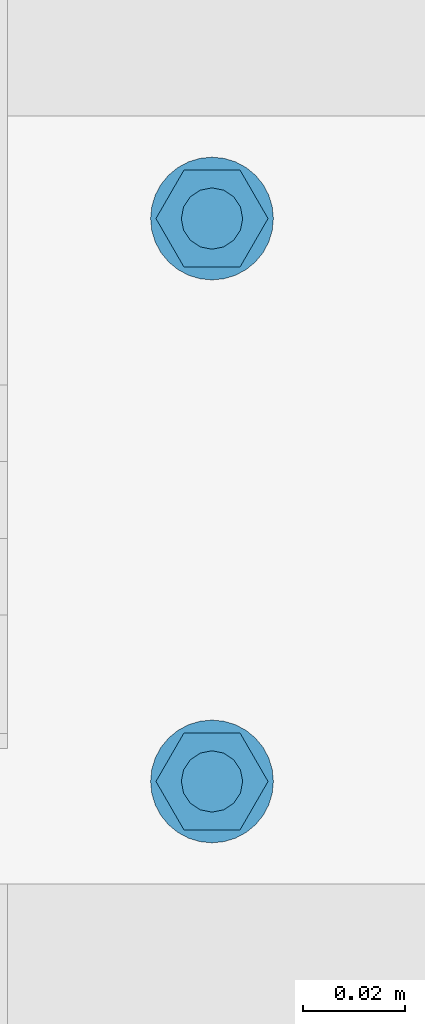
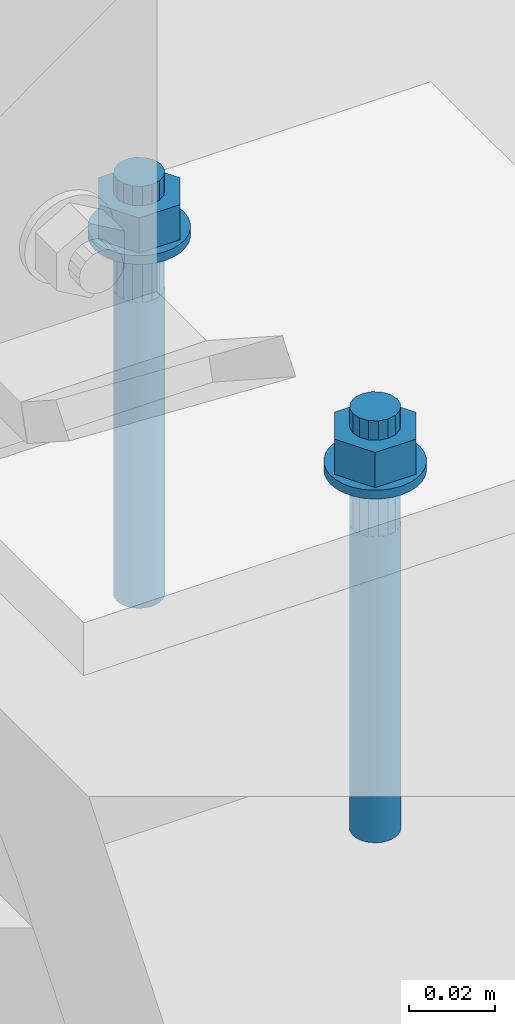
# One storey, part 187 of 296: 1 mechanical fastener.
"""IFC2X3 building model written with IfcOpenShell, lengths in millimetres."""

from ifc_helpers import new_model, entity, si_unit, converted_unit, origin_with_axes, place, context, project, spatial, faceted_brep, element, save


model = new_model("IFC2X3")

# Units and contexts
model_context = context("Model", 3, precision=1e-09, world=origin_with_axes())
ifc_project = project(units=[si_unit("LENGTHUNIT", "METRE", prefix="MILLI"), si_unit("AREAUNIT", "SQUARE_METRE"), si_unit("VOLUMEUNIT", "CUBIC_METRE"), converted_unit("PLANEANGLEUNIT", "DEGREE", entity("IfcPlaneAngleMeasure", 0.01745329), si_unit("PLANEANGLEUNIT", "RADIAN"), dimensions=[0, 0, 0, 0, 0, 0, 0])], contexts=[model_context])

# Site, building, storey
site_placement = place(None, origin_with_axes())
site = spatial("IfcSite", under=ifc_project, at=site_placement, Name="TZD-S?d | Treppenhausgel?nder", CompositionType="ELEMENT")
building_placement = place(site_placement, origin_with_axes())
building = spatial("IfcBuilding", under=site, at=building_placement, Name="Struktur 1", CompositionType="ELEMENT")
storey_placement = place(building_placement, origin_with_axes())
storey = spatial("IfcBuildingStorey", under=building, at=storey_placement, Name="Default Storey", CompositionType="ELEMENT", Elevation=0.0)

# Mechanical fastener
mechanical_fastener_placement = place(None, origin_with_axes())
element("IfcMechanicalFastener", 1, at=mechanical_fastener_placement, inside=storey, ObjectType="-", NominalDiameter=12.0, NominalLength=120.0, context=model_context, shape_type="Brep", body=[
    faceted_brep([(5959.999, -483.0, 2824.999), (5959.999, -483.0, 2827.499), (5962.340083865, -483.230576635, 2827.499), (5962.340083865, -483.230576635, 2824.999), (5964.591201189, -483.91344561, 2827.499), (5964.591201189, -483.91344561, 2824.999), (5966.665842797, -485.022364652, 2827.499), (5966.665842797, -485.022364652, 2824.999), (5968.484281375, -486.514718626, 2827.499), (5968.484281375, -486.514718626, 2824.999), (5969.976635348, -488.333157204, 2827.499), (5969.976635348, -488.333157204, 2824.999), (5971.085554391, -490.407798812, 2827.499), (5971.085554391, -490.407798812, 2824.999), (5971.768423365, -492.658916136, 2827.499), (5971.768423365, -492.658916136, 2824.999), (5971.999, -495.0, 2827.499), (5971.999, -495.0, 2824.999), (5971.768423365, -497.341083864, 2827.499), (5971.768423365, -497.341083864, 2824.999), (5971.085554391, -499.592201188, 2827.499), (5971.085554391, -499.592201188, 2824.999), (5969.976635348, -501.666842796, 2827.499), (5969.976635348, -501.666842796, 2824.999), (5968.484281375, -503.485281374, 2827.499), (5968.484281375, -503.485281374, 2824.999), (5966.665842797, -504.977635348, 2827.499), (5966.665842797, -504.977635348, 2824.999), (5964.591201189, -506.08655439, 2827.499), (5964.591201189, -506.08655439, 2824.999), (5962.340083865, -506.769423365, 2827.499), (5962.340083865, -506.769423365, 2824.999), (5959.999, -507.0, 2827.499), (5959.999, -507.0, 2824.999), (5957.657916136, -506.769423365, 2827.499), (5957.657916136, -506.769423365, 2824.999), (5955.406798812, -506.08655439, 2827.499), (5955.406798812, -506.08655439, 2824.999), (5953.332157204, -504.977635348, 2827.499), (5953.332157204, -504.977635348, 2824.999), (5951.513718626, -503.485281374, 2827.499), (5951.513718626, -503.485281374, 2824.999), (5950.021364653, -501.666842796, 2827.499), (5950.021364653, -501.666842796, 2824.999), (5948.91244561, -499.592201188, 2827.499), (5948.91244561, -499.592201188, 2824.999), (5948.229576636, -497.341083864, 2827.499), (5948.229576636, -497.341083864, 2824.999), (5947.999, -495.0, 2827.499), (5947.999, -495.0, 2824.999), (5948.229576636, -492.658916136, 2827.499), (5948.229576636, -492.658916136, 2824.999), (5948.91244561, -490.407798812, 2827.499), (5948.91244561, -490.407798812, 2824.999), (5950.021364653, -488.333157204, 2827.499), (5950.021364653, -488.333157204, 2824.999), (5951.513718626, -486.514718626, 2827.499), (5951.513718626, -486.514718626, 2824.999), (5953.332157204, -485.022364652, 2827.499), (5953.332157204, -485.022364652, 2824.999), (5955.406798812, -483.91344561, 2827.499), (5955.406798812, -483.91344561, 2824.999), (5957.657916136, -483.230576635, 2827.499), (5957.657916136, -483.230576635, 2824.999)], [[[0, 1, 2, 3]], [[3, 2, 4, 5]], [[5, 4, 6, 7]], [[7, 6, 8, 9]], [[9, 8, 10, 11]], [[11, 10, 12, 13]], [[13, 12, 14, 15]], [[15, 14, 16, 17]], [[17, 16, 18, 19]], [[19, 18, 20, 21]], [[21, 20, 22, 23]], [[23, 22, 24, 25]], [[25, 24, 26, 27]], [[27, 26, 28, 29]], [[29, 28, 30, 31]], [[31, 30, 32, 33]], [[33, 32, 34, 35]], [[35, 34, 36, 37]], [[37, 36, 38, 39]], [[39, 38, 40, 41]], [[41, 40, 42, 43]], [[43, 42, 44, 45]], [[45, 44, 46, 47]], [[47, 46, 48, 49]], [[49, 48, 50, 51]], [[51, 50, 52, 53]], [[53, 52, 54, 55]], [[55, 54, 56, 57]], [[57, 56, 58, 59]], [[59, 58, 60, 61]], [[61, 60, 62, 63]], [[63, 62, 1, 0]], [[2, 1, 62, 60, 58, 56, 54, 52, 50, 48, 46, 44, 42, 40, 38, 36, 34, 32, 30, 28, 26, 24, 22, 20, 18, 16, 14, 12, 10, 8, 6, 4]], [[63, 0, 3, 5, 7, 9, 11, 13, 15, 17, 19, 21, 23, 25, 27, 29, 31, 33, 35, 37, 39, 41, 43, 45, 47, 49, 51, 53, 55, 57, 59, 61]]]),
    faceted_brep([(5959.999, -373.0, 2824.999), (5959.999, -373.0, 2827.499), (5962.340083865, -373.230576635, 2827.499), (5962.340083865, -373.230576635, 2824.999), (5964.591201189, -373.91344561, 2827.499), (5964.591201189, -373.91344561, 2824.999), (5966.665842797, -375.022364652, 2827.499), (5966.665842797, -375.022364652, 2824.999), (5968.484281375, -376.514718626, 2827.499), (5968.484281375, -376.514718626, 2824.999), (5969.976635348, -378.333157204, 2827.499), (5969.976635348, -378.333157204, 2824.999), (5971.085554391, -380.407798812, 2827.499), (5971.085554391, -380.407798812, 2824.999), (5971.768423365, -382.658916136, 2827.499), (5971.768423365, -382.658916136, 2824.999), (5971.999, -385.0, 2827.499), (5971.999, -385.0, 2824.999), (5971.768423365, -387.341083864, 2827.499), (5971.768423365, -387.341083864, 2824.999), (5971.085554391, -389.592201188, 2827.499), (5971.085554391, -389.592201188, 2824.999), (5969.976635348, -391.666842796, 2827.499), (5969.976635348, -391.666842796, 2824.999), (5968.484281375, -393.485281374, 2827.499), (5968.484281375, -393.485281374, 2824.999), (5966.665842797, -394.977635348, 2827.499), (5966.665842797, -394.977635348, 2824.999), (5964.591201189, -396.08655439, 2827.499), (5964.591201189, -396.08655439, 2824.999), (5962.340083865, -396.769423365, 2827.499), (5962.340083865, -396.769423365, 2824.999), (5959.999, -397.0, 2827.499), (5959.999, -397.0, 2824.999), (5957.657916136, -396.769423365, 2827.499), (5957.657916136, -396.769423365, 2824.999), (5955.406798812, -396.08655439, 2827.499), (5955.406798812, -396.08655439, 2824.999), (5953.332157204, -394.977635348, 2827.499), (5953.332157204, -394.977635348, 2824.999), (5951.513718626, -393.485281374, 2827.499), (5951.513718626, -393.485281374, 2824.999), (5950.021364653, -391.666842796, 2827.499), (5950.021364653, -391.666842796, 2824.999), (5948.91244561, -389.592201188, 2827.499), (5948.91244561, -389.592201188, 2824.999), (5948.229576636, -387.341083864, 2827.499), (5948.229576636, -387.341083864, 2824.999), (5947.999, -385.0, 2827.499), (5947.999, -385.0, 2824.999), (5948.229576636, -382.658916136, 2827.499), (5948.229576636, -382.658916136, 2824.999), (5948.91244561, -380.407798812, 2827.499), (5948.91244561, -380.407798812, 2824.999), (5950.021364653, -378.333157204, 2827.499), (5950.021364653, -378.333157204, 2824.999), (5951.513718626, -376.514718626, 2827.499), (5951.513718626, -376.514718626, 2824.999), (5953.332157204, -375.022364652, 2827.499), (5953.332157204, -375.022364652, 2824.999), (5955.406798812, -373.91344561, 2827.499), (5955.406798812, -373.91344561, 2824.999), (5957.657916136, -373.230576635, 2827.499), (5957.657916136, -373.230576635, 2824.999)], [[[0, 1, 2, 3]], [[3, 2, 4, 5]], [[5, 4, 6, 7]], [[7, 6, 8, 9]], [[9, 8, 10, 11]], [[11, 10, 12, 13]], [[13, 12, 14, 15]], [[15, 14, 16, 17]], [[17, 16, 18, 19]], [[19, 18, 20, 21]], [[21, 20, 22, 23]], [[23, 22, 24, 25]], [[25, 24, 26, 27]], [[27, 26, 28, 29]], [[29, 28, 30, 31]], [[31, 30, 32, 33]], [[33, 32, 34, 35]], [[35, 34, 36, 37]], [[37, 36, 38, 39]], [[39, 38, 40, 41]], [[41, 40, 42, 43]], [[43, 42, 44, 45]], [[45, 44, 46, 47]], [[47, 46, 48, 49]], [[49, 48, 50, 51]], [[51, 50, 52, 53]], [[53, 52, 54, 55]], [[55, 54, 56, 57]], [[57, 56, 58, 59]], [[59, 58, 60, 61]], [[61, 60, 62, 63]], [[63, 62, 1, 0]], [[2, 1, 62, 60, 58, 56, 54, 52, 50, 48, 46, 44, 42, 40, 38, 36, 34, 32, 30, 28, 26, 24, 22, 20, 18, 16, 14, 12, 10, 8, 6, 4]], [[63, 0, 3, 5, 7, 9, 11, 13, 15, 17, 19, 21, 23, 25, 27, 29, 31, 33, 35, 37, 39, 41, 43, 45, 47, 49, 51, 53, 55, 57, 59, 61]]]),
    faceted_brep([(5965.474, -504.482978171, 2837.499), (5965.474, -504.482978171, 2827.499), (5970.949, -495.0, 2827.499), (5970.949, -495.0, 2837.499), (5965.474, -485.517021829, 2827.499), (5965.474, -485.517021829, 2837.499), (5954.524, -485.517021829, 2827.499), (5954.524, -485.517021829, 2837.499), (5949.049, -495.0, 2827.499), (5949.049, -495.0, 2837.499), (5954.524, -504.482978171, 2827.499), (5954.524, -504.482978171, 2837.499)], [[[0, 1, 2, 3]], [[3, 2, 4, 5]], [[5, 4, 6, 7]], [[7, 6, 8, 9]], [[9, 8, 10, 11]], [[11, 10, 1, 0]], [[3, 5, 7, 9, 11, 0]], [[2, 1, 10, 8, 6, 4]]]),
    faceted_brep([(5965.474, -394.482978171, 2837.499), (5965.474, -394.482978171, 2827.499), (5970.949, -385.0, 2827.499), (5970.949, -385.0, 2837.499), (5965.474, -375.517021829, 2827.499), (5965.474, -375.517021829, 2837.499), (5954.524, -375.517021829, 2827.499), (5954.524, -375.517021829, 2837.499), (5949.049, -385.0, 2827.499), (5949.049, -385.0, 2837.499), (5954.524, -394.482978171, 2827.499), (5954.524, -394.482978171, 2837.499)], [[[0, 1, 2, 3]], [[3, 2, 4, 5]], [[5, 4, 6, 7]], [[7, 6, 8, 9]], [[9, 8, 10, 11]], [[11, 10, 1, 0]], [[3, 5, 7, 9, 11, 0]], [[2, 1, 10, 8, 6, 4]]]),
    faceted_brep([(5959.999, -489.0, 2837.499), (5959.999, -489.0, 2842.999), (5962.295100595, -489.456722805, 2842.999), (5962.295100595, -489.456722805, 2837.499), (5964.241640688, -490.757359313, 2842.999), (5964.241640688, -490.757359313, 2837.499), (5965.542277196, -492.703899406, 2842.999), (5965.542277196, -492.703899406, 2837.499), (5965.999, -495.0, 2842.999), (5965.999, -495.0, 2837.499), (5965.542277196, -497.296100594, 2842.999), (5965.542277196, -497.296100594, 2837.499), (5964.241640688, -499.242640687, 2842.999), (5964.241640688, -499.242640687, 2837.499), (5962.295100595, -500.543277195, 2842.999), (5962.295100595, -500.543277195, 2837.499), (5959.999, -501.0, 2842.999), (5959.999, -501.0, 2837.499), (5957.702899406, -500.543277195, 2842.999), (5957.702899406, -500.543277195, 2837.499), (5955.756359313, -499.242640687, 2842.999), (5955.756359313, -499.242640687, 2837.499), (5954.455722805, -497.296100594, 2842.999), (5954.455722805, -497.296100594, 2837.499), (5953.999, -495.0, 2842.999), (5953.999, -495.0, 2837.499), (5954.455722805, -492.703899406, 2842.999), (5954.455722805, -492.703899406, 2837.499), (5955.756359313, -490.757359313, 2842.999), (5955.756359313, -490.757359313, 2837.499), (5957.702899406, -489.456722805, 2842.999), (5957.702899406, -489.456722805, 2837.499)], [[[0, 1, 2, 3]], [[3, 2, 4, 5]], [[5, 4, 6, 7]], [[7, 6, 8, 9]], [[9, 8, 10, 11]], [[11, 10, 12, 13]], [[13, 12, 14, 15]], [[15, 14, 16, 17]], [[17, 16, 18, 19]], [[19, 18, 20, 21]], [[21, 20, 22, 23]], [[23, 22, 24, 25]], [[25, 24, 26, 27]], [[27, 26, 28, 29]], [[29, 28, 30, 31]], [[31, 30, 1, 0]], [[2, 1, 30, 28, 26, 24, 22, 20, 18, 16, 14, 12, 10, 8, 6, 4]], [[31, 0, 3, 5, 7, 9, 11, 13, 15, 17, 19, 21, 23, 25, 27, 29]]]),
    faceted_brep([(5959.999, -379.0, 2837.499), (5959.999, -379.0, 2842.999), (5962.295100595, -379.456722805, 2842.999), (5962.295100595, -379.456722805, 2837.499), (5964.241640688, -380.757359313, 2842.999), (5964.241640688, -380.757359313, 2837.499), (5965.542277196, -382.703899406, 2842.999), (5965.542277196, -382.703899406, 2837.499), (5965.999, -385.0, 2842.999), (5965.999, -385.0, 2837.499), (5965.542277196, -387.296100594, 2842.999), (5965.542277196, -387.296100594, 2837.499), (5964.241640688, -389.242640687, 2842.999), (5964.241640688, -389.242640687, 2837.499), (5962.295100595, -390.543277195, 2842.999), (5962.295100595, -390.543277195, 2837.499), (5959.999, -391.0, 2842.999), (5959.999, -391.0, 2837.499), (5957.702899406, -390.543277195, 2842.999), (5957.702899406, -390.543277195, 2837.499), (5955.756359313, -389.242640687, 2842.999), (5955.756359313, -389.242640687, 2837.499), (5954.455722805, -387.296100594, 2842.999), (5954.455722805, -387.296100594, 2837.499), (5953.999, -385.0, 2842.999), (5953.999, -385.0, 2837.499), (5954.455722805, -382.703899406, 2842.999), (5954.455722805, -382.703899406, 2837.499), (5955.756359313, -380.757359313, 2842.999), (5955.756359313, -380.757359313, 2837.499), (5957.702899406, -379.456722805, 2842.999), (5957.702899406, -379.456722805, 2837.499)], [[[0, 1, 2, 3]], [[3, 2, 4, 5]], [[5, 4, 6, 7]], [[7, 6, 8, 9]], [[9, 8, 10, 11]], [[11, 10, 12, 13]], [[13, 12, 14, 15]], [[15, 14, 16, 17]], [[17, 16, 18, 19]], [[19, 18, 20, 21]], [[21, 20, 22, 23]], [[23, 22, 24, 25]], [[25, 24, 26, 27]], [[27, 26, 28, 29]], [[29, 28, 30, 31]], [[31, 30, 1, 0]], [[2, 1, 30, 28, 26, 24, 22, 20, 18, 16, 14, 12, 10, 8, 6, 4]], [[31, 0, 3, 5, 7, 9, 11, 13, 15, 17, 19, 21, 23, 25, 27, 29]]]),
    faceted_brep([(5959.999, -489.0, 2809.999), (5959.999, -489.0, 2824.999), (5962.295100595, -489.456722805, 2824.999), (5962.295100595, -489.456722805, 2809.999), (5964.241640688, -490.757359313, 2824.999), (5964.241640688, -490.757359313, 2809.999), (5965.542277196, -492.703899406, 2824.999), (5965.542277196, -492.703899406, 2809.999), (5965.999, -495.0, 2824.999), (5965.999, -495.0, 2809.999), (5965.542277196, -497.296100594, 2824.999), (5965.542277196, -497.296100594, 2809.999), (5964.241640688, -499.242640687, 2824.999), (5964.241640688, -499.242640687, 2809.999), (5962.295100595, -500.543277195, 2824.999), (5962.295100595, -500.543277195, 2809.999), (5959.999, -501.0, 2824.999), (5959.999, -501.0, 2809.999), (5957.702899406, -500.543277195, 2824.999), (5957.702899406, -500.543277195, 2809.999), (5955.756359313, -499.242640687, 2824.999), (5955.756359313, -499.242640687, 2809.999), (5954.455722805, -497.296100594, 2824.999), (5954.455722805, -497.296100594, 2809.999), (5953.999, -495.0, 2824.999), (5953.999, -495.0, 2809.999), (5954.455722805, -492.703899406, 2824.999), (5954.455722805, -492.703899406, 2809.999), (5955.756359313, -490.757359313, 2824.999), (5955.756359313, -490.757359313, 2809.999), (5957.702899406, -489.456722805, 2824.999), (5957.702899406, -489.456722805, 2809.999)], [[[0, 1, 2, 3]], [[3, 2, 4, 5]], [[5, 4, 6, 7]], [[7, 6, 8, 9]], [[9, 8, 10, 11]], [[11, 10, 12, 13]], [[13, 12, 14, 15]], [[15, 14, 16, 17]], [[17, 16, 18, 19]], [[19, 18, 20, 21]], [[21, 20, 22, 23]], [[23, 22, 24, 25]], [[25, 24, 26, 27]], [[27, 26, 28, 29]], [[29, 28, 30, 31]], [[31, 30, 1, 0]], [[2, 1, 30, 28, 26, 24, 22, 20, 18, 16, 14, 12, 10, 8, 6, 4]], [[31, 0, 3, 5, 7, 9, 11, 13, 15, 17, 19, 21, 23, 25, 27, 29]]]),
    faceted_brep([(5959.999, -379.0, 2809.999), (5959.999, -379.0, 2824.999), (5962.295100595, -379.456722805, 2824.999), (5962.295100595, -379.456722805, 2809.999), (5964.241640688, -380.757359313, 2824.999), (5964.241640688, -380.757359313, 2809.999), (5965.542277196, -382.703899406, 2824.999), (5965.542277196, -382.703899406, 2809.999), (5965.999, -385.0, 2824.999), (5965.999, -385.0, 2809.999), (5965.542277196, -387.296100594, 2824.999), (5965.542277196, -387.296100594, 2809.999), (5964.241640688, -389.242640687, 2824.999), (5964.241640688, -389.242640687, 2809.999), (5962.295100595, -390.543277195, 2824.999), (5962.295100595, -390.543277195, 2809.999), (5959.999, -391.0, 2824.999), (5959.999, -391.0, 2809.999), (5957.702899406, -390.543277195, 2824.999), (5957.702899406, -390.543277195, 2809.999), (5955.756359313, -389.242640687, 2824.999), (5955.756359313, -389.242640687, 2809.999), (5954.455722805, -387.296100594, 2824.999), (5954.455722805, -387.296100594, 2809.999), (5953.999, -385.0, 2824.999), (5953.999, -385.0, 2809.999), (5954.455722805, -382.703899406, 2824.999), (5954.455722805, -382.703899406, 2809.999), (5955.756359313, -380.757359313, 2824.999), (5955.756359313, -380.757359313, 2809.999), (5957.702899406, -379.456722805, 2824.999), (5957.702899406, -379.456722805, 2809.999)], [[[0, 1, 2, 3]], [[3, 2, 4, 5]], [[5, 4, 6, 7]], [[7, 6, 8, 9]], [[9, 8, 10, 11]], [[11, 10, 12, 13]], [[13, 12, 14, 15]], [[15, 14, 16, 17]], [[17, 16, 18, 19]], [[19, 18, 20, 21]], [[21, 20, 22, 23]], [[23, 22, 24, 25]], [[25, 24, 26, 27]], [[27, 26, 28, 29]], [[29, 28, 30, 31]], [[31, 30, 1, 0]], [[2, 1, 30, 28, 26, 24, 22, 20, 18, 16, 14, 12, 10, 8, 6, 4]], [[31, 0, 3, 5, 7, 9, 11, 13, 15, 17, 19, 21, 23, 25, 27, 29]]]),
    faceted_brep([(5959.999, -489.0, 2722.999), (5959.999, -489.0, 2809.999), (5961.169541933, -489.115288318, 2809.999), (5961.169541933, -489.115288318, 2722.999), (5962.295100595, -489.456722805, 2809.999), (5962.295100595, -489.456722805, 2722.999), (5963.332421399, -490.011182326, 2809.999), (5963.332421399, -490.011182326, 2722.999), (5964.241640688, -490.757359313, 2809.999), (5964.241640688, -490.757359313, 2722.999), (5964.987817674, -491.666578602, 2809.999), (5964.987817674, -491.666578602, 2722.999), (5965.542277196, -492.703899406, 2809.999), (5965.542277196, -492.703899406, 2722.999), (5965.883711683, -493.829458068, 2809.999), (5965.883711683, -493.829458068, 2722.999), (5965.999, -495.0, 2809.999), (5965.999, -495.0, 2722.999), (5965.883711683, -496.170541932, 2809.999), (5965.883711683, -496.170541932, 2722.999), (5965.542277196, -497.296100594, 2809.999), (5965.542277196, -497.296100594, 2722.999), (5964.987817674, -498.333421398, 2809.999), (5964.987817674, -498.333421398, 2722.999), (5964.241640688, -499.242640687, 2809.999), (5964.241640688, -499.242640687, 2722.999), (5963.332421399, -499.988817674, 2809.999), (5963.332421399, -499.988817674, 2722.999), (5962.295100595, -500.543277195, 2809.999), (5962.295100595, -500.543277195, 2722.999), (5961.169541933, -500.884711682, 2809.999), (5961.169541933, -500.884711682, 2722.999), (5959.999, -501.0, 2809.999), (5959.999, -501.0, 2722.999), (5958.828458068, -500.884711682, 2809.999), (5958.828458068, -500.884711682, 2722.999), (5957.702899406, -500.543277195, 2809.999), (5957.702899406, -500.543277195, 2722.999), (5956.665578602, -499.988817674, 2809.999), (5956.665578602, -499.988817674, 2722.999), (5955.756359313, -499.242640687, 2809.999), (5955.756359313, -499.242640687, 2722.999), (5955.010182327, -498.333421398, 2809.999), (5955.010182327, -498.333421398, 2722.999), (5954.455722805, -497.296100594, 2809.999), (5954.455722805, -497.296100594, 2722.999), (5954.114288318, -496.170541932, 2809.999), (5954.114288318, -496.170541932, 2722.999), (5953.999, -495.0, 2809.999), (5953.999, -495.0, 2722.999), (5954.114288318, -493.829458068, 2809.999), (5954.114288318, -493.829458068, 2722.999), (5954.455722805, -492.703899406, 2809.999), (5954.455722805, -492.703899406, 2722.999), (5955.010182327, -491.666578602, 2809.999), (5955.010182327, -491.666578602, 2722.999), (5955.756359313, -490.757359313, 2809.999), (5955.756359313, -490.757359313, 2722.999), (5956.665578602, -490.011182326, 2809.999), (5956.665578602, -490.011182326, 2722.999), (5957.702899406, -489.456722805, 2809.999), (5957.702899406, -489.456722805, 2722.999), (5958.828458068, -489.115288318, 2809.999), (5958.828458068, -489.115288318, 2722.999)], [[[0, 1, 2, 3]], [[3, 2, 4, 5]], [[5, 4, 6, 7]], [[7, 6, 8, 9]], [[9, 8, 10, 11]], [[11, 10, 12, 13]], [[13, 12, 14, 15]], [[15, 14, 16, 17]], [[17, 16, 18, 19]], [[19, 18, 20, 21]], [[21, 20, 22, 23]], [[23, 22, 24, 25]], [[25, 24, 26, 27]], [[27, 26, 28, 29]], [[29, 28, 30, 31]], [[31, 30, 32, 33]], [[33, 32, 34, 35]], [[35, 34, 36, 37]], [[37, 36, 38, 39]], [[39, 38, 40, 41]], [[41, 40, 42, 43]], [[43, 42, 44, 45]], [[45, 44, 46, 47]], [[47, 46, 48, 49]], [[49, 48, 50, 51]], [[51, 50, 52, 53]], [[53, 52, 54, 55]], [[55, 54, 56, 57]], [[57, 56, 58, 59]], [[59, 58, 60, 61]], [[61, 60, 62, 63]], [[63, 62, 1, 0]], [[2, 1, 62, 60, 58, 56, 54, 52, 50, 48, 46, 44, 42, 40, 38, 36, 34, 32, 30, 28, 26, 24, 22, 20, 18, 16, 14, 12, 10, 8, 6, 4]], [[63, 0, 3, 5, 7, 9, 11, 13, 15, 17, 19, 21, 23, 25, 27, 29, 31, 33, 35, 37, 39, 41, 43, 45, 47, 49, 51, 53, 55, 57, 59, 61]]]),
    faceted_brep([(5959.999, -379.0, 2722.999), (5959.999, -379.0, 2809.999), (5961.169541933, -379.115288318, 2809.999), (5961.169541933, -379.115288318, 2722.999), (5962.295100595, -379.456722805, 2809.999), (5962.295100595, -379.456722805, 2722.999), (5963.332421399, -380.011182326, 2809.999), (5963.332421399, -380.011182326, 2722.999), (5964.241640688, -380.757359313, 2809.999), (5964.241640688, -380.757359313, 2722.999), (5964.987817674, -381.666578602, 2809.999), (5964.987817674, -381.666578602, 2722.999), (5965.542277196, -382.703899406, 2809.999), (5965.542277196, -382.703899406, 2722.999), (5965.883711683, -383.829458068, 2809.999), (5965.883711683, -383.829458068, 2722.999), (5965.999, -385.0, 2809.999), (5965.999, -385.0, 2722.999), (5965.883711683, -386.170541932, 2809.999), (5965.883711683, -386.170541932, 2722.999), (5965.542277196, -387.296100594, 2809.999), (5965.542277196, -387.296100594, 2722.999), (5964.987817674, -388.333421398, 2809.999), (5964.987817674, -388.333421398, 2722.999), (5964.241640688, -389.242640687, 2809.999), (5964.241640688, -389.242640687, 2722.999), (5963.332421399, -389.988817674, 2809.999), (5963.332421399, -389.988817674, 2722.999), (5962.295100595, -390.543277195, 2809.999), (5962.295100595, -390.543277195, 2722.999), (5961.169541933, -390.884711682, 2809.999), (5961.169541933, -390.884711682, 2722.999), (5959.999, -391.0, 2809.999), (5959.999, -391.0, 2722.999), (5958.828458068, -390.884711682, 2809.999), (5958.828458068, -390.884711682, 2722.999), (5957.702899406, -390.543277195, 2809.999), (5957.702899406, -390.543277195, 2722.999), (5956.665578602, -389.988817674, 2809.999), (5956.665578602, -389.988817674, 2722.999), (5955.756359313, -389.242640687, 2809.999), (5955.756359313, -389.242640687, 2722.999), (5955.010182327, -388.333421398, 2809.999), (5955.010182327, -388.333421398, 2722.999), (5954.455722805, -387.296100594, 2809.999), (5954.455722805, -387.296100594, 2722.999), (5954.114288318, -386.170541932, 2809.999), (5954.114288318, -386.170541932, 2722.999), (5953.999, -385.0, 2809.999), (5953.999, -385.0, 2722.999), (5954.114288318, -383.829458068, 2809.999), (5954.114288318, -383.829458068, 2722.999), (5954.455722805, -382.703899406, 2809.999), (5954.455722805, -382.703899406, 2722.999), (5955.010182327, -381.666578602, 2809.999), (5955.010182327, -381.666578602, 2722.999), (5955.756359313, -380.757359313, 2809.999), (5955.756359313, -380.757359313, 2722.999), (5956.665578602, -380.011182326, 2809.999), (5956.665578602, -380.011182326, 2722.999), (5957.702899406, -379.456722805, 2809.999), (5957.702899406, -379.456722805, 2722.999), (5958.828458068, -379.115288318, 2809.999), (5958.828458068, -379.115288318, 2722.999)], [[[0, 1, 2, 3]], [[3, 2, 4, 5]], [[5, 4, 6, 7]], [[7, 6, 8, 9]], [[9, 8, 10, 11]], [[11, 10, 12, 13]], [[13, 12, 14, 15]], [[15, 14, 16, 17]], [[17, 16, 18, 19]], [[19, 18, 20, 21]], [[21, 20, 22, 23]], [[23, 22, 24, 25]], [[25, 24, 26, 27]], [[27, 26, 28, 29]], [[29, 28, 30, 31]], [[31, 30, 32, 33]], [[33, 32, 34, 35]], [[35, 34, 36, 37]], [[37, 36, 38, 39]], [[39, 38, 40, 41]], [[41, 40, 42, 43]], [[43, 42, 44, 45]], [[45, 44, 46, 47]], [[47, 46, 48, 49]], [[49, 48, 50, 51]], [[51, 50, 52, 53]], [[53, 52, 54, 55]], [[55, 54, 56, 57]], [[57, 56, 58, 59]], [[59, 58, 60, 61]], [[61, 60, 62, 63]], [[63, 62, 1, 0]], [[2, 1, 62, 60, 58, 56, 54, 52, 50, 48, 46, 44, 42, 40, 38, 36, 34, 32, 30, 28, 26, 24, 22, 20, 18, 16, 14, 12, 10, 8, 6, 4]], [[63, 0, 3, 5, 7, 9, 11, 13, 15, 17, 19, 21, 23, 25, 27, 29, 31, 33, 35, 37, 39, 41, 43, 45, 47, 49, 51, 53, 55, 57, 59, 61]]]),
])

save(model, "model.ifc")
